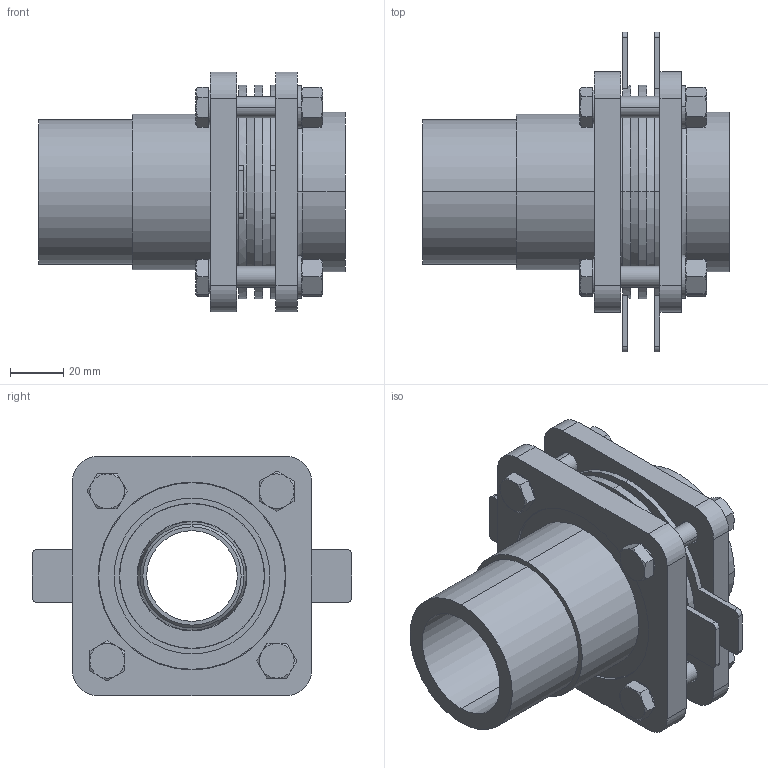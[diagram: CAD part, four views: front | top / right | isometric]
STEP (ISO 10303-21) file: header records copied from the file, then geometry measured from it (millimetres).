
FILE_DESCRIPTION (( 'STEP AP203' ), '1' );
FILE_NAME ('KP_C16-54F.step', '2011-08-08T12:00:26', ( '' ), ( '' ), 'SwSTEP 2.0', 'SolidWorks 2011', '' );
FILE_SCHEMA (( 'CONFIG_CONTROL_DESIGN' ));
Length unit declared in the file: millimetre
Products named in the file (1): KP_C16-54F
Bounding box: 115 x 120 x 90 mm (x, y, z)
Volume: 264773.7 mm3; surface area: 106093.7 mm2
Topology: 1 solids, 1 shells, 414 faces, 935 edges, 568 vertices
Faces by surface type: plane 147, cone 122, cylinder 119, torus 22, bspline 4
Entity records: 19584 total; most frequent: CARTESIAN_POINT 10341, DIRECTION 1945, ORIENTED_EDGE 1870, EDGE_CURVE 935, AXIS2_PLACEMENT_3D 802, VERTEX_POINT 568, EDGE_LOOP 469, ADVANCED_FACE 414
